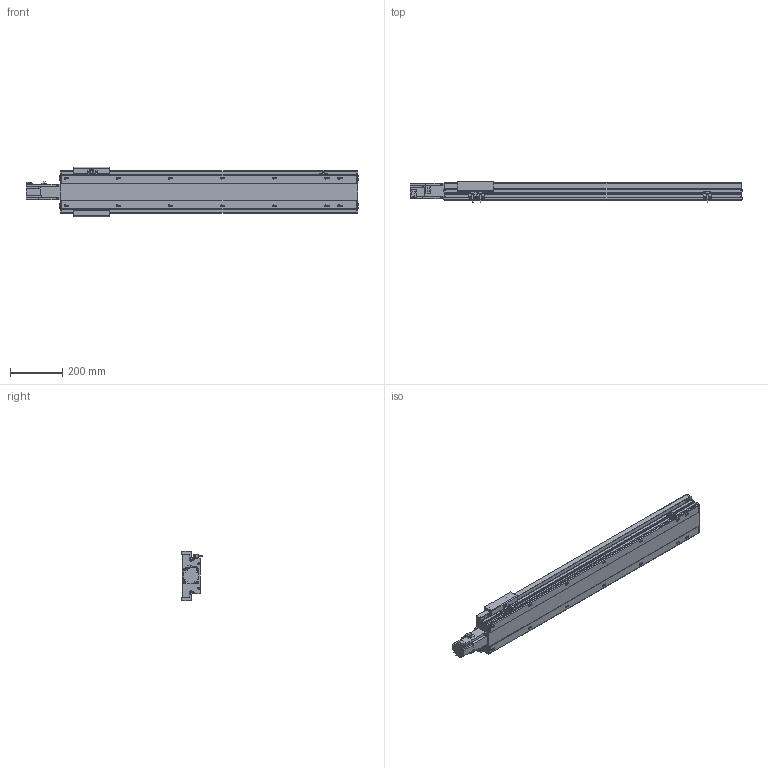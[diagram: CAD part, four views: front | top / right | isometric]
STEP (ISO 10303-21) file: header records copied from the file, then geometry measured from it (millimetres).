
FILE_DESCRIPTION(/* description */ ('STEP AP214'),/* implementation_level */ '2;1');
FILE_NAME(/* name */ 'PSM140-L10-S900-BC-T40-C1-N(0)',/* time_stamp */ '2022-06-13T03:19:48+02:00',/* author */ ('License CC BY-ND 4.0'),/* organization */ ('CADENAS'),/* preprocessor_version */ 'ST-DEVELOPER v18.102',/* originating_system */ 'PARTsolutions',/* authorisation */ ' ');
FILE_SCHEMA (('AUTOMOTIVE_DESIGN {1 0 10303 214 3 1 1}'));
Length unit declared in the file: millimetre
Products named in the file (7): PSM140-L10-S900-BC-T40-C1-N(0); PSM-Sensor; PSM140-S900-1142.5; T40-p1; PSM140_body3; PSM140-S900_body1; PSM140-L10-S900-BC-T40-C1-N(0)_dummy
Assembly tree (10 placements, depth 2):
  PSM140-L10-S900-BC-T40-C1-N(0)
    PSM-Sensor  x3
    PSM140-S900-1142.5  x3
    T40-p1
    PSM140_body3
    PSM140-S900_body1
    PSM140-L10-S900-BC-T40-C1-N(0)_dummy
Bounding box: 1273.7 x 81.3 x 190 mm (x, y, z)
Volume: 5395263.9 mm3; surface area: 1153014.7 mm2
Topology: 9 solids, 9 shells, 976 faces, 2587 edges, 1682 vertices
Faces by surface type: plane 632, cylinder 266, cone 64, torus 14
Full cylindrical faces by diameter (mm): 2.8 x3, 4.5 x12, 4.6 x3, 4.917 x22, 5.5 x7, 5.7 x6, 6 x2, 7 x22, 8 x8, 8.5 x4, 10.5 x14, 14 x1, 50 x1
Entity records: 24984 total; most frequent: CARTESIAN_POINT 4525, DIRECTION 4203, ORIENTED_EDGE 3950, EDGE_CURVE 1975, AXIS2_PLACEMENT_3D 1413, VERTEX_POINT 1392, LINE 1377, VECTOR 1377
